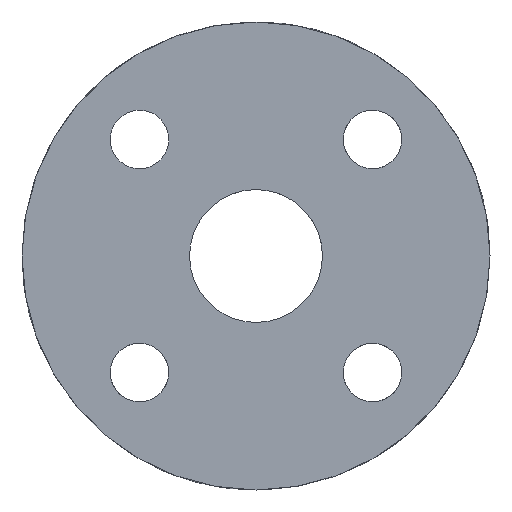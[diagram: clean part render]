
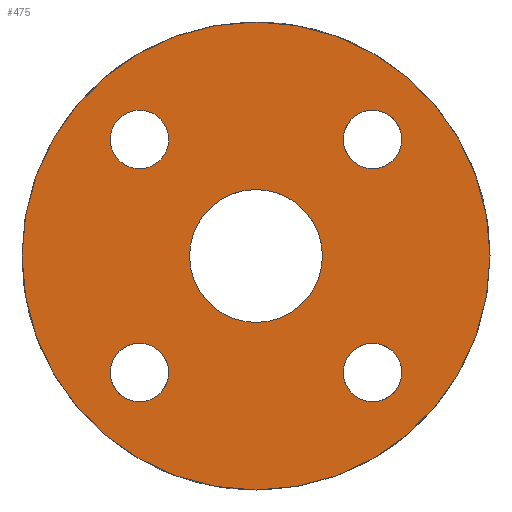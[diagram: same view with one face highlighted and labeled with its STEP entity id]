
A CAD part, left-side view. The second image highlights one B-rep face of the part: STEP entity #475.
In plain terms, the highlighted planar face has unit normal (-1, 0, 0).
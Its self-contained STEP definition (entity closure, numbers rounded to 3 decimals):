
#63=CARTESIAN_POINT('Vertex',(0.,8.547,9.642)) ;
#77=CARTESIAN_POINT('Vertex',(0.,13.374,12.279)) ;
#80=CARTESIAN_POINT('Axis2P3D Location',(0.,10.96,10.96)) ;
#109=CARTESIAN_POINT('Control Point',(0.,13.374,12.279)) ;
#110=CARTESIAN_POINT('Control Point',(0.,12.959,13.037)) ;
#111=CARTESIAN_POINT('Control Point',(0.,12.247,13.632)) ;
#112=CARTESIAN_POINT('Control Point',(0.,11.321,13.904)) ;
#113=CARTESIAN_POINT('Control Point',(0.,9.479,13.671)) ;
#114=CARTESIAN_POINT('Control Point',(0.,8.288,12.247)) ;
#115=CARTESIAN_POINT('Control Point',(0.,8.016,11.321)) ;
#116=CARTESIAN_POINT('Control Point',(0.,8.133,10.4)) ;
#117=CARTESIAN_POINT('Control Point',(0.,8.547,9.642)) ;
#376=CARTESIAN_POINT('Axis2P3D Location',(0.,0.,0.)) ;
#381=CARTESIAN_POINT('Axis2P3D Location',(0.,0.,0.)) ;
#385=CARTESIAN_POINT('Vertex',(0.,-22.,0.)) ;
#387=CARTESIAN_POINT('Vertex',(0.,22.,0.)) ;
#390=CARTESIAN_POINT('Axis2P3D Location',(0.,0.,0.)) ;
#403=CARTESIAN_POINT('Axis2P3D Location',(0.,0.,0.)) ;
#407=CARTESIAN_POINT('Vertex',(0.,-5.485,-2.996)) ;
#409=CARTESIAN_POINT('Vertex',(0.,5.485,2.996)) ;
#412=CARTESIAN_POINT('Axis2P3D Location',(0.,0.,0.)) ;
#421=CARTESIAN_POINT('Axis2P3D Location',(0.,-10.96,10.96)) ;
#425=CARTESIAN_POINT('Vertex',(0.,-12.279,13.374)) ;
#427=CARTESIAN_POINT('Vertex',(0.,-9.642,8.547)) ;
#430=CARTESIAN_POINT('Axis2P3D Location',(0.,-10.96,10.96)) ;
#439=CARTESIAN_POINT('Axis2P3D Location',(0.,-10.96,-10.96)) ;
#443=CARTESIAN_POINT('Vertex',(0.,-13.374,-12.279)) ;
#445=CARTESIAN_POINT('Vertex',(0.,-8.547,-9.642)) ;
#448=CARTESIAN_POINT('Axis2P3D Location',(0.,-10.96,-10.96)) ;
#457=CARTESIAN_POINT('Axis2P3D Location',(0.,10.96,-10.96)) ;
#461=CARTESIAN_POINT('Vertex',(0.,12.279,-13.374)) ;
#463=CARTESIAN_POINT('Vertex',(0.,9.642,-8.547)) ;
#466=CARTESIAN_POINT('Axis2P3D Location',(0.,10.96,-10.96)) ;
#81=DIRECTION('Axis2P3D Direction',(1.,0.,-0.)) ;
#377=DIRECTION('Axis2P3D Direction',(1.,0.,0.)) ;
#378=DIRECTION('Axis2P3D XDirection',(0.,1.,0.)) ;
#382=DIRECTION('Axis2P3D Direction',(1.,0.,0.)) ;
#391=DIRECTION('Axis2P3D Direction',(1.,0.,0.)) ;
#404=DIRECTION('Axis2P3D Direction',(1.,0.,0.)) ;
#413=DIRECTION('Axis2P3D Direction',(1.,0.,0.)) ;
#422=DIRECTION('Axis2P3D Direction',(1.,0.,0.)) ;
#431=DIRECTION('Axis2P3D Direction',(1.,0.,0.)) ;
#440=DIRECTION('Axis2P3D Direction',(1.,0.,0.)) ;
#449=DIRECTION('Axis2P3D Direction',(1.,0.,0.)) ;
#458=DIRECTION('Axis2P3D Direction',(1.,0.,0.)) ;
#467=DIRECTION('Axis2P3D Direction',(1.,0.,0.)) ;
#82=AXIS2_PLACEMENT_3D('Circle Axis2P3D',#80,#81,$) ;
#379=AXIS2_PLACEMENT_3D('Plane Axis2P3D',#376,#377,#378) ;
#383=AXIS2_PLACEMENT_3D('Circle Axis2P3D',#381,#382,$) ;
#392=AXIS2_PLACEMENT_3D('Circle Axis2P3D',#390,#391,$) ;
#405=AXIS2_PLACEMENT_3D('Circle Axis2P3D',#403,#404,$) ;
#414=AXIS2_PLACEMENT_3D('Circle Axis2P3D',#412,#413,$) ;
#423=AXIS2_PLACEMENT_3D('Circle Axis2P3D',#421,#422,$) ;
#432=AXIS2_PLACEMENT_3D('Circle Axis2P3D',#430,#431,$) ;
#441=AXIS2_PLACEMENT_3D('Circle Axis2P3D',#439,#440,$) ;
#450=AXIS2_PLACEMENT_3D('Circle Axis2P3D',#448,#449,$) ;
#459=AXIS2_PLACEMENT_3D('Circle Axis2P3D',#457,#458,$) ;
#468=AXIS2_PLACEMENT_3D('Circle Axis2P3D',#466,#467,$) ;
#396=ORIENTED_EDGE('',*,*,#389,.F.) ;
#397=ORIENTED_EDGE('',*,*,#394,.F.) ;
#400=ORIENTED_EDGE('',*,*,#84,.T.) ;
#401=ORIENTED_EDGE('',*,*,#118,.T.) ;
#418=ORIENTED_EDGE('',*,*,#411,.T.) ;
#419=ORIENTED_EDGE('',*,*,#416,.T.) ;
#436=ORIENTED_EDGE('',*,*,#429,.T.) ;
#437=ORIENTED_EDGE('',*,*,#434,.T.) ;
#454=ORIENTED_EDGE('',*,*,#447,.T.) ;
#455=ORIENTED_EDGE('',*,*,#452,.T.) ;
#472=ORIENTED_EDGE('',*,*,#465,.T.) ;
#473=ORIENTED_EDGE('',*,*,#470,.T.) ;
#402=FACE_BOUND('',#399,.T.) ;
#420=FACE_BOUND('',#417,.T.) ;
#438=FACE_BOUND('',#435,.T.) ;
#456=FACE_BOUND('',#453,.T.) ;
#474=FACE_BOUND('',#471,.T.) ;
#475=ADVANCED_FACE('TTMH12',(#398,#402,#420,#438,#456,#474),#380,.F.) ;
#108=B_SPLINE_CURVE_WITH_KNOTS('',5,(#109,#110,#111,#112,#113,#114,#115,#116,#117),.UNSPECIFIED.,.F.,.U.,(6,3,6),(-4.32,0.,4.32),.UNSPECIFIED.) ;
#83=CIRCLE('generated circle',#82,2.75) ;
#384=CIRCLE('generated circle',#383,22.) ;
#393=CIRCLE('generated circle',#392,22.) ;
#406=CIRCLE('generated circle',#405,6.25) ;
#415=CIRCLE('generated circle',#414,6.25) ;
#424=CIRCLE('generated circle',#423,2.75) ;
#433=CIRCLE('generated circle',#432,2.75) ;
#442=CIRCLE('generated circle',#441,2.75) ;
#451=CIRCLE('generated circle',#450,2.75) ;
#460=CIRCLE('generated circle',#459,2.75) ;
#469=CIRCLE('generated circle',#468,2.75) ;
#84=EDGE_CURVE('',#64,#78,#83,.T.) ;
#118=EDGE_CURVE('',#78,#64,#108,.T.) ;
#389=EDGE_CURVE('',#386,#388,#384,.T.) ;
#394=EDGE_CURVE('',#388,#386,#393,.T.) ;
#411=EDGE_CURVE('',#408,#410,#406,.T.) ;
#416=EDGE_CURVE('',#410,#408,#415,.T.) ;
#429=EDGE_CURVE('',#426,#428,#424,.T.) ;
#434=EDGE_CURVE('',#428,#426,#433,.T.) ;
#447=EDGE_CURVE('',#444,#446,#442,.T.) ;
#452=EDGE_CURVE('',#446,#444,#451,.T.) ;
#465=EDGE_CURVE('',#462,#464,#460,.T.) ;
#470=EDGE_CURVE('',#464,#462,#469,.T.) ;
#395=EDGE_LOOP('',(#396,#397)) ;
#399=EDGE_LOOP('',(#400,#401)) ;
#417=EDGE_LOOP('',(#418,#419)) ;
#435=EDGE_LOOP('',(#436,#437)) ;
#453=EDGE_LOOP('',(#454,#455)) ;
#471=EDGE_LOOP('',(#472,#473)) ;
#398=FACE_OUTER_BOUND('',#395,.T.) ;
#380=PLANE('',#379) ;
#64=VERTEX_POINT('',#63) ;
#78=VERTEX_POINT('',#77) ;
#386=VERTEX_POINT('',#385) ;
#388=VERTEX_POINT('',#387) ;
#408=VERTEX_POINT('',#407) ;
#410=VERTEX_POINT('',#409) ;
#426=VERTEX_POINT('',#425) ;
#428=VERTEX_POINT('',#427) ;
#444=VERTEX_POINT('',#443) ;
#446=VERTEX_POINT('',#445) ;
#462=VERTEX_POINT('',#461) ;
#464=VERTEX_POINT('',#463) ;
